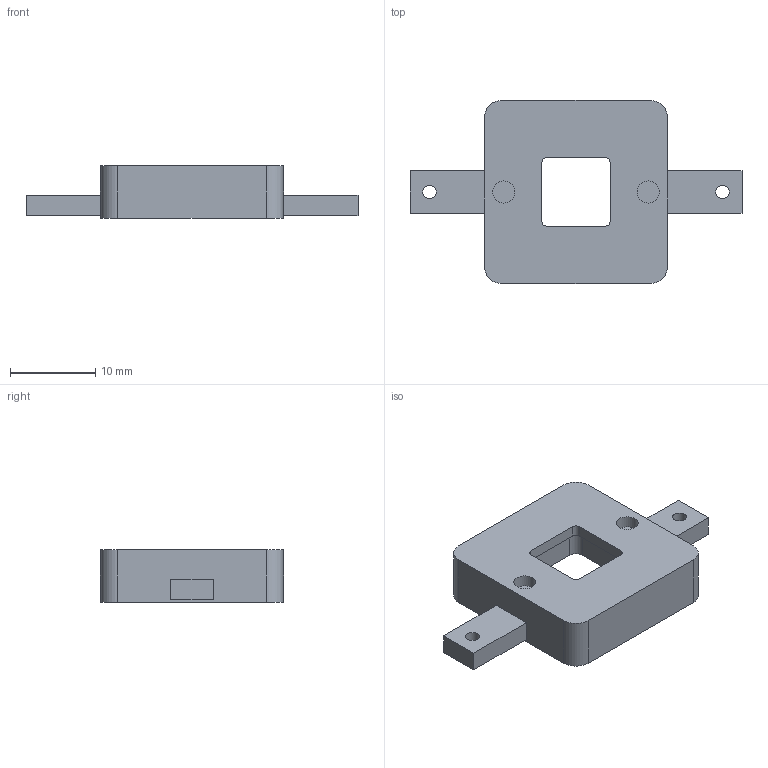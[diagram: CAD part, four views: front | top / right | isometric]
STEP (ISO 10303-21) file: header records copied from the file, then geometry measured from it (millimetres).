
FILE_DESCRIPTION(('Open CASCADE Model'),'2;1');
FILE_NAME('Open CASCADE Shape Model','2026-09-06T11:45:45',('Author'),( 'Open CASCADE'),'Open CASCADE STEP processor 7.7','Open CASCADE 7.7' ,'Unknown');
FILE_SCHEMA(('AUTOMOTIVE_DESIGN { 1 0 10303 214 1 1 1 1 }'));
Length unit declared in the file: millimetre
Products named in the file (1): Open CASCADE STEP translator 7.7 9
Bounding box: 39 x 21.5 x 6.15 mm (x, y, z)
Volume: 2153.8 mm3; surface area: 1894.5 mm2
Topology: 1 solids, 1 shells, 51 faces, 120 edges, 80 vertices
Faces by surface type: plane 31, cylinder 20
Full cylindrical faces by diameter (mm): 1.6 x6, 2.6 x2
Entity records: 3098 total; most frequent: CARTESIAN_POINT 576, DIRECTION 490, LINE 280, VECTOR 280, ORIENTED_EDGE 240, PCURVE 240, DEFINITIONAL_REPRESENTATION 240, EDGE_CURVE 120
